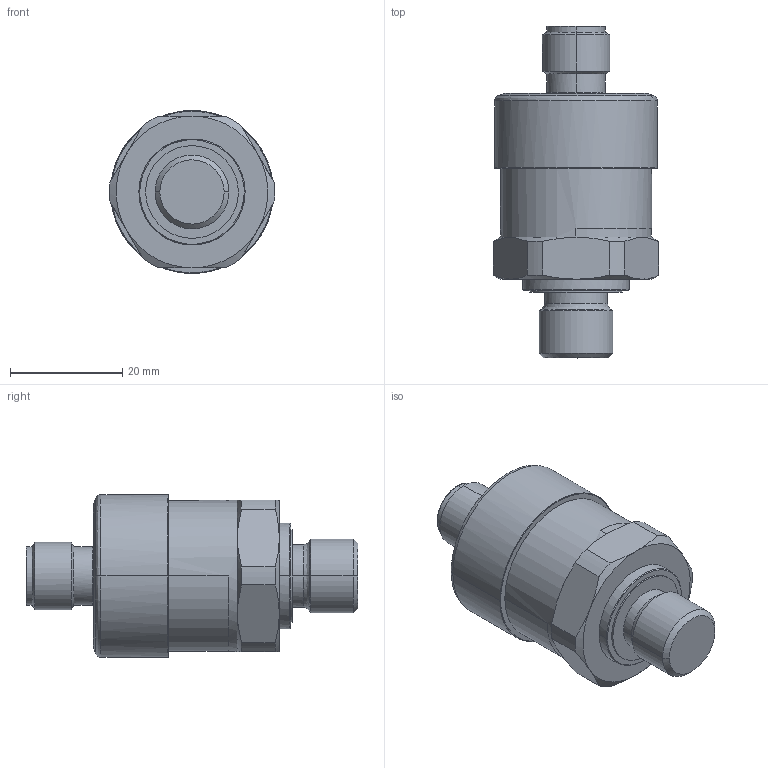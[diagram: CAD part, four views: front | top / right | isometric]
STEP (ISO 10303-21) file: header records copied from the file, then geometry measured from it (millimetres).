
FILE_DESCRIPTION (( 'STEP AP203' ), '1' );
FILE_NAME ('PBT-xxxxxxG1xxxxMx0x.STEP', '2010-04-16T12:14:22', ( 'K.J. Wernet' ), ( 'SICK AG' ), 'SwSTEP 2.0', 'SolidWorks 2008', '' );
FILE_SCHEMA (( 'CONFIG_CONTROL_DESIGN' ));
Length unit declared in the file: millimetre
Products named in the file (1): PBT-xxxxxxG1xxxxMx0x
Bounding box: 29.5 x 59.1 x 28.98 mm (x, y, z)
Volume: 23665.6 mm3; surface area: 5349.1 mm2
Topology: 1 solids, 1 shells, 71 faces, 156 edges, 92 vertices
Faces by surface type: bspline 58, plane 13
Entity records: 4154 total; most frequent: CARTESIAN_POINT 2933, ORIENTED_EDGE 312, EDGE_CURVE 156, B_SPLINE_CURVE_WITH_KNOTS 112, VERTEX_POINT 92, EDGE_LOOP 76, DIRECTION 72, ADVANCED_FACE 71
